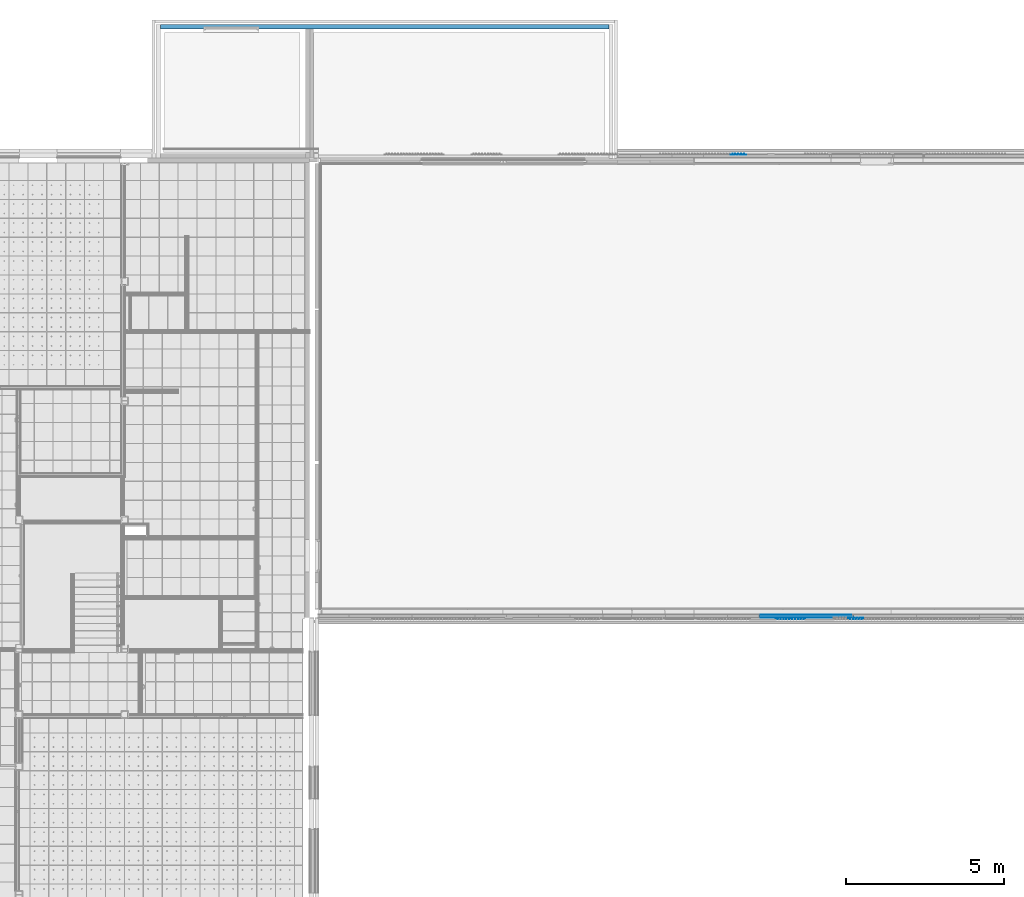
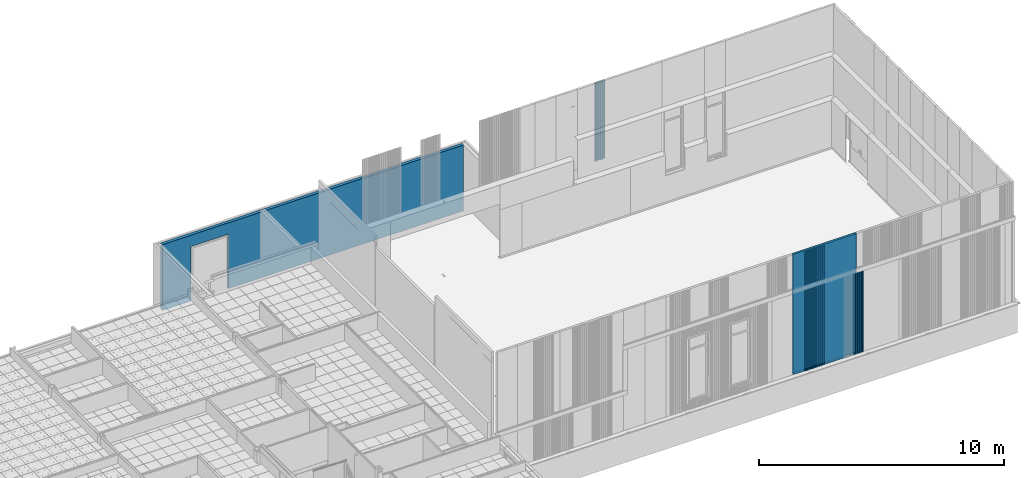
# One storey, part 98 of 338: 10 building element parts, 1 opening, 6 elements without a shape of their own.
"""IFC2X3 building model written with IfcOpenShell, lengths in millimetres."""

import ifcopenshell
import ifcopenshell.guid

model = None  # the IFC model being written
_history = None  # IfcOwnerHistory: only IFC2X3 demands one
_inside = {}  # id of a spatial element -> (the spatial element, [elements in it])
_under = {}  # id of a project, library or spatial element -> (it, [spatial elements below it])
_declared = {}  # id of a project -> (the project, [libraries it declares])
_typed = {}  # id of a type object -> (the type object, [elements of that type])
_made_of = {}  # id of a material, layer set ... -> (it, [elements and type objects made of it])


def new_model(schema):
    """Start an empty IFC model of exactly this schema.

    Asked for "IFC4X3", IfcOpenShell would pick the latest addendum, in which some entities
    have other attributes; the version numbers below select the first issue.
    IFC2X3 requires an IfcOwnerHistory on every rooted entity: one is made here for all.
    """
    global model, _history
    if schema == "IFC4X3":
        model = ifcopenshell.file(schema_version=(4, 3, 0, 0))
    else:
        model = ifcopenshell.file(schema=schema)
    _inside.clear()
    _under.clear()
    _declared.clear()
    _typed.clear()
    _made_of.clear()
    _history = None
    if model.schema == "IFC2X3":
        org = make("IfcOrganization", Name="unknown")
        user = make(
            "IfcPersonAndOrganization",
            ThePerson=make("IfcPerson", FamilyName="unknown"),
            TheOrganization=org,
        )
        app = make(
            "IfcApplication",
            ApplicationDeveloper=org,
            Version="unknown",
            ApplicationFullName="unknown",
            ApplicationIdentifier="unknown",
        )
        _history = make(
            "IfcOwnerHistory",
            OwningUser=user,
            OwningApplication=app,
            ChangeAction="ADDED",
            CreationDate=0,
        )
    return model


def make(cls, **values):
    """One entity of the class cls with the attributes given. An attribute that is None is left unset."""
    return model.create_entity(
        cls, **{name: value for name, value in values.items() if value is not None}
    )


def entity(cls, *values):
    """Any entity or typed value of the class cls, its attributes in the order of the schema. None: left unset."""
    e = model.create_entity(cls)
    for i, value in enumerate(values):
        if value is not None:
            e[i] = value
    return e


def rooted(cls, **values):
    """An entity with a GlobalId (a new one), such as an element, a storey or a relation."""
    return make(cls, GlobalId=ifcopenshell.guid.new(), OwnerHistory=_history, **values)


def si_unit(unit_type, name, prefix=None):
    """IfcSIUnit, for example si_unit("LENGTHUNIT", "METRE", prefix="MILLI")."""
    return make("IfcSIUnit", UnitType=unit_type, Prefix=prefix, Name=name)


def converted_unit(unit_type, name, factor, base, dimensions=None, offset=None):
    """IfcConversionBasedUnit, such as the inch: factor (a typed value) times the base unit."""
    return make(
        "IfcConversionBasedUnit"
        if offset is None
        else "IfcConversionBasedUnitWithOffset",
        ConversionOffset=offset,
        Dimensions=None
        if dimensions is None
        else entity("IfcDimensionalExponents", *dimensions),
        UnitType=unit_type,
        Name=name,
        ConversionFactor=make(
            "IfcMeasureWithUnit", ValueComponent=factor, UnitComponent=base
        ),
    )


def derived_unit(unit_type, elements):
    """IfcDerivedUnit: a product of units, each with its exponent."""
    return make(
        "IfcDerivedUnit",
        Elements=[
            make("IfcDerivedUnitElement", Unit=unit, Exponent=power)
            for unit, power in elements
        ],
        UnitType=unit_type,
    )


def money_unit(currency):
    """IfcMonetaryUnit."""
    return make("IfcMonetaryUnit", Currency=currency)


def assignment(units):
    """IfcUnitAssignment: the units of a project."""
    return None if units is None else make("IfcUnitAssignment", Units=units)


def point(xyz):
    """IfcCartesianPoint."""
    return None if xyz is None else make("IfcCartesianPoint", Coordinates=xyz)


def direction(xyz):
    """IfcDirection."""
    return None if xyz is None else make("IfcDirection", DirectionRatios=xyz)


def frame(location, z_axis=None, x_axis=None):
    """IfcAxis2Placement3D, a coordinate frame: its origin and axes. An axis left out is left unset."""
    return make(
        "IfcAxis2Placement3D",
        Location=point(location),
        Axis=direction(z_axis),
        RefDirection=direction(x_axis),
    )


def origin_with_axes():
    """The frame at (0, 0, 0) with the z axis (0, 0, 1) and the x axis (1, 0, 0) written out."""
    return frame((0.0, 0.0, 0.0), z_axis=(0.0, 0.0, 1.0), x_axis=(1.0, 0.0, 0.0))


def place(relative_to, where):
    """IfcLocalPlacement: puts the frame where relative to a parent placement (None: the world)."""
    return make(
        "IfcLocalPlacement", PlacementRelTo=relative_to, RelativePlacement=where
    )


def context(
    kind, dimensions, precision=None, world=None, true_north=None, identifier=None
):
    """IfcGeometricRepresentationContext, for example the 3D "Model" context."""
    return make(
        "IfcGeometricRepresentationContext",
        ContextIdentifier=identifier,
        ContextType=kind,
        CoordinateSpaceDimension=dimensions,
        Precision=precision,
        WorldCoordinateSystem=world,
        TrueNorth=true_north,
    )


def subcontext(parent, identifier, kind, view, scale=None):
    """IfcGeometricRepresentationSubContext, for example "Body" below "Model"."""
    return make(
        "IfcGeometricRepresentationSubContext",
        ContextIdentifier=identifier,
        ContextType=kind,
        ParentContext=parent,
        TargetScale=scale,
        TargetView=view,
    )


def project(units=None, contexts=None):
    """IfcProject with its units and contexts."""
    return rooted(
        "IfcProject",
        Name="project",
        RepresentationContexts=contexts,
        UnitsInContext=assignment(units),
    )


def spatial(cls, under=None, at=None, **own):
    """A site, building, storey or space (cls), placed at a placement, below another one or the project."""
    s = rooted(cls, ObjectPlacement=at, **own)
    if under is not None:
        _under.setdefault(under.id(), (under, []))[1].append(s)
    return s


def faces_of(points, faces, orient=None, outer=None):
    """IfcFace entities. A face is a list of loops; a loop is a list of indices into points, from 0.

    orient and outer hold one flag for each loop. By default every Orientation is true, the
    first loop of a face is its IfcFaceOuterBound and the others are IfcFaceBound.
    """
    made = []
    for i, loops in enumerate(faces):
        bounds = []
        for j, loop in enumerate(loops):
            is_outer = j == 0 if outer is None else outer[i][j]
            bounds.append(
                make(
                    "IfcFaceOuterBound" if is_outer else "IfcFaceBound",
                    Bound=make("IfcPolyLoop", Polygon=[points[k] for k in loop]),
                    Orientation=True if orient is None else orient[i][j],
                )
            )
        made.append(make("IfcFace", Bounds=bounds))
    return made


def faceted_brep(points, faces, orient=None, outer=None, voids=None):
    """IfcFacetedBrep: a solid bounded by flat faces; with voids (closed shells), ...WithVoids."""
    shared = [point(p) for p in points]
    hull = make("IfcClosedShell", CfsFaces=faces_of(shared, faces, orient, outer))
    if voids is None:
        return make("IfcFacetedBrep", Outer=hull)
    return make(
        "IfcFacetedBrepWithVoids",
        Outer=hull,
        Voids=[
            make(cls, CfsFaces=faces_of(shared, fs, o, b)) for cls, fs, o, b in voids
        ],
    )


def shape(context_of_items, identifier, shape_type, items):
    """IfcShapeRepresentation: the items that make up one representation, for example the "Body"."""
    return make(
        "IfcShapeRepresentation",
        ContextOfItems=context_of_items,
        RepresentationIdentifier=identifier,
        RepresentationType=shape_type,
        Items=items,
    )


def material(Name=None, Category=None):
    """IfcMaterial."""
    return make("IfcMaterial", Name=Name, Category=Category)


def made_of(thing, what):
    """Note that an element or type object is made of a material, layer set ...; save() writes the relation."""
    if what is not None:
        _made_of.setdefault(what.id(), (what, []))[1].append(thing)
    return thing


def type_object(cls, material=None, **own):
    """A type object (cls), such as IfcWallType, which elements share."""
    return made_of(rooted(cls, **own), material)


def element(
    cls,
    number,
    at=None,
    inside=None,
    cuts=None,
    type_object=None,
    material=None,
    context=None,
    identifier="Body",
    shape_type=None,
    held_by="IfcProductDefinitionShape",
    body=None,
    shapes=None,
    **own,
):
    """One element of the class cls, such as IfcWall. Its Tag is "e" and its number.

    at: its placement. inside: the storey or other place that contains it. cuts: it is an
    opening in that element (IfcRelVoidsElement). A single representation is given by context,
    identifier, shape_type and body (its items); several are given by shapes. held_by: the class
    of the entity that holds the representations. save() writes the other relations.
    """
    e = rooted(cls, Tag="e%d" % number, ObjectPlacement=at, **own)
    if body is not None:
        shapes = [shape(context, identifier, shape_type, body)]
    if shapes is not None:
        e.Representation = make(held_by, Representations=shapes)
    if inside is not None:
        _inside.setdefault(inside.id(), (inside, []))[1].append(e)
    if cuts is not None:
        rooted(
            "IfcRelVoidsElement", RelatingBuildingElement=cuts, RelatedOpeningElement=e
        )
    if type_object is not None:
        _typed.setdefault(type_object.id(), (type_object, []))[1].append(e)
    return made_of(e, material)


def aggregate(whole, parts):
    """IfcRelAggregates: a whole, such as a stair, and the parts it consists of."""
    return rooted("IfcRelAggregates", RelatingObject=whole, RelatedObjects=parts)


def save(model, path):
    """Write the relations noted so far, then the file.

    IfcRelAggregates (storeys below a building ...), IfcRelContainedInSpatialStructure (elements
    in a storey), IfcRelDefinesByType, IfcRelAssociatesMaterial and IfcRelDeclares: one each for
    every whole, place, type object, material and project.
    """
    for whole, parts in _under.values():
        aggregate(whole, parts)
    for where, things in _inside.values():
        rooted(
            "IfcRelContainedInSpatialStructure",
            RelatedElements=things,
            RelatingStructure=where,
        )
    for kind, things in _typed.values():
        rooted("IfcRelDefinesByType", RelatedObjects=things, RelatingType=kind)
    for what, things in _made_of.values():
        rooted("IfcRelAssociatesMaterial", RelatedObjects=things, RelatingMaterial=what)
    for by, libraries in _declared.values():
        rooted("IfcRelDeclares", RelatingContext=by, RelatedDefinitions=libraries)
    model.write(path)


model = new_model("IFC2X3")

# Units and contexts
model_context = context("Model", 3, precision=0.01, world=origin_with_axes(), true_north=direction((0.0, 1.0)))
plan_context = context("Plan", 3, precision=0.01, world=origin_with_axes(), true_north=direction((0.0, 1.0)))
body_context = subcontext(model_context, "Body", "Model", "MODEL_VIEW")
ifc_project = project(units=[si_unit("LENGTHUNIT", "METRE", prefix="MILLI"), si_unit("AREAUNIT", "SQUARE_METRE"), si_unit("VOLUMEUNIT", "CUBIC_METRE"), converted_unit("PLANEANGLEUNIT", "DEGREE", entity("IfcPlaneAngleMeasure", 0.0174532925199), si_unit("PLANEANGLEUNIT", "RADIAN"), dimensions=[0, 0, 0, 0, 0, 0, 0]), money_unit("EUR"), converted_unit("TIMEUNIT", "Year", entity("IfcTimeMeasure", 31556926.0), si_unit("TIMEUNIT", "SECOND"), dimensions=[0, 0, 1, 0, 0, 0, 0]), si_unit("MASSUNIT", "GRAM", prefix="KILO"), si_unit("THERMODYNAMICTEMPERATUREUNIT", "DEGREE_CELSIUS"), si_unit("LUMINOUSINTENSITYUNIT", "LUMEN"), si_unit("ENERGYUNIT", "JOULE", prefix="MEGA"), derived_unit("THERMALCONDUCTANCEUNIT", [(si_unit("POWERUNIT", "WATT"), 1), (si_unit("LENGTHUNIT", "METRE"), -1), (si_unit("THERMODYNAMICTEMPERATUREUNIT", "KELVIN"), -1)]), derived_unit("SPECIFICHEATCAPACITYUNIT", [(si_unit("ENERGYUNIT", "JOULE"), 1), (si_unit("MASSUNIT", "GRAM", prefix="KILO"), -1), (si_unit("THERMODYNAMICTEMPERATUREUNIT", "KELVIN"), -1)]), derived_unit("MASSDENSITYUNIT", [(si_unit("MASSUNIT", "GRAM", prefix="KILO"), 1), (si_unit("VOLUMEUNIT", "CUBIC_METRE"), -1)])], contexts=[model_context, plan_context])

# Site, building, storey
site_placement = place(None, origin_with_axes())
site = spatial("IfcSite", under=ifc_project, at=site_placement, Name="Fortuinstraat Woensdrecht", CompositionType="ELEMENT")
building_placement = place(site_placement, origin_with_axes())
building = spatial("IfcBuilding", under=site, at=building_placement, Name="IKC Fortuna", CompositionType="ELEMENT")
storey_placement = place(building_placement, origin_with_axes())
storey = spatial("IfcBuildingStorey", under=building, at=storey_placement, Name="00 begane grond", CompositionType="ELEMENT", Elevation=0.0)

# Wall, opening, building element part
wall_type_1 = type_object("IfcWallType", Name="21 MW accent 280", PredefinedType="NOTDEFINED")
wall_1_placement = place(storey_placement, frame((44333.4279792, 39596.2966283, -485.0), z_axis=(0.0, 0.0, 1.0), x_axis=(-1.0, 0.0, 0.0)))
wall_1 = element("IfcWall", 1, at=wall_1_placement, inside=storey, type_object=wall_type_1, Name="21_Wand_Baksteen")
opening_placement = place(wall_1_placement, frame((11983.0060326, 0.0, 297.5), z_axis=(0.0, 0.0, 1.0), x_axis=(1.0, 0.0, 0.0)))
element("IfcOpeningElement", 2, at=opening_placement, cuts=wall_1, Name="31_Deur_H.14", context=body_context, shape_type="Brep", body=[
    faceted_brep([(-885.0, -560.0, -485.0), (-885.0, -560.0, 2420.0), (-885.0, -72.0, 2420.0), (-885.0, -72.0, -485.0), (885.0, -560.0, -485.0), (885.0, -560.0, 2420.0), (885.0, -72.0, 2420.0), (885.0, -72.0, -485.0)], [[[0, 1, 2, 3]], [[0, 4, 5, 1]], [[1, 5, 6, 2]], [[3, 2, 6, 7]], [[4, 0, 3, 7]], [[5, 4, 7, 6]]]),
    faceted_brep([(-885.0, 280.0, 2420.0), (-885.0, 280.0, -485.0), (-885.0, -72.0, -485.0), (-885.0, -72.0, 2420.0), (885.0, 280.0, 2420.0), (885.0, 280.0, -485.0), (885.0, -72.0, -485.0), (885.0, -72.0, 2420.0)], [[[0, 1, 2, 3]], [[0, 4, 5, 1]], [[1, 5, 6, 2]], [[3, 2, 6, 7]], [[4, 0, 3, 7]], [[5, 4, 7, 6]]]),
])
ifc_material_1 = material(Name="ALG - ISOLATIE")
building_element_part_1_placement = place(wall_1_placement, origin_with_axes())
building_element_part_1 = element("IfcBuildingElementPart", 3, at=building_element_part_1_placement, material=ifc_material_1, Name="ALG - ISOLATIE", context=body_context, shape_type="Brep", body=[
    faceted_brep([(12868.0060326, -21.0, 317.5), (12868.0060326, 0.0, 317.5), (12868.0060326, 0.0, 222.5), (12868.0060326, -72.0, 222.5), (12868.0060326, -72.0, 292.86275329), (12868.0060326, -21.0, 297.5), (12868.0060326, -72.0, 2717.5), (12868.0060326, 0.0, 2717.5), (11098.0060326, 0.0, 2717.5), (11098.0060326, 0.0, 317.5), (11098.0060326, 0.0, 222.5), (11098.0060326, 0.0, 0.0), (0.0, 0.0, 0.0), (0.0, 0.0, 3285.0), (14227.993877, 0.0, 3285.0), (14227.993877, 0.0, 0.0), (12868.0060326, 0.0, 0.0), (12868.0060326, -72.0, 0.0), (12868.0060326, -140.0, 0.0), (12868.0060326, -140.0, 2717.5), (11098.0060326, -72.0, 2717.5), (11098.0060326, -72.0, 292.86275329), (11098.0060326, -21.0, 297.5), (11098.0060326, -21.0, 317.5), (11098.0060326, -72.0, 222.5), (11098.0060326, -72.0, 0.0), (11098.0060326, -140.0, 0.0), (-3.14844399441e-05, -140.0, 0.0), (-3.14844399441e-05, -140.0, 3285.0), (14227.9939075, -140.0, 3285.0), (14227.9939075, -140.0, 0.0), (11098.0060326, -140.0, 2717.5)], [[[0, 1, 2, 3, 4, 5]], [[4, 6, 7, 1, 0, 5]], [[8, 9, 10, 11, 12, 13, 14, 15, 16, 2, 1, 7]], [[17, 3, 2, 16]], [[6, 4, 3, 17, 18, 19]], [[6, 20, 8, 7]], [[20, 21, 22, 23, 9, 8]], [[22, 21, 24, 10, 9, 23]], [[10, 24, 25, 11]], [[11, 25, 26, 27, 12]], [[27, 28, 13, 12]], [[13, 28, 29, 14]], [[14, 29, 30, 15]], [[17, 16, 15, 30, 18]], [[27, 26, 31, 19, 18, 30, 29, 28]], [[20, 6, 19, 31]], [[21, 20, 31, 26, 25, 24]]]),
])
aggregate(wall_1, [building_element_part_1])

# Wall, building element parts
wall_type_2 = type_object("IfcWallType", Name="21 sandwich 100", PredefinedType="NOTDEFINED")
wall_2_placement = place(storey_placement, frame((52093.4131798, 20996.2966283, 1000.0), z_axis=(0.0, 0.0, 1.0), x_axis=(-1.0, 0.0, 0.0)))
wall_2 = element("IfcWall", 4, at=wall_2_placement, inside=storey, type_object=wall_type_2, Name="21_Wand_sandwichplaat")
ifc_material_2 = material(Name="Metaal - Aluminium")
building_element_part_2_placement = place(wall_2_placement, origin_with_axes())
building_element_part_2 = element("IfcBuildingElementPart", 5, at=building_element_part_2_placement, material=ifc_material_2, Name="Metaal - Aluminium", context=body_context, shape_type="Brep", body=[
    faceted_brep([(0.0, 99.0, 6000.0), (3000.0, 99.0, 6000.0), (3000.0, 100.0, 6000.0), (0.0, 100.0, 6000.0), (0.0, 99.0, 0.0), (3000.0, 99.0, 0.0), (3000.0, 100.0, 0.0), (0.0, 100.0, 0.0)], [[[0, 1, 2, 3]], [[4, 5, 1, 0]], [[2, 1, 5, 6]], [[3, 2, 6, 7]], [[4, 0, 3, 7]], [[7, 6, 5, 4]]]),
])
ifc_material_3 = material(Name="Isolatie - Kunststof hard")
building_element_part_3_placement = place(wall_2_placement, origin_with_axes())
building_element_part_3 = element("IfcBuildingElementPart", 6, at=building_element_part_3_placement, material=ifc_material_3, Name="Isolatie - Kunststof hard", context=body_context, shape_type="Brep", body=[
    faceted_brep([(3000.0, 1.0, 6000.0), (3000.0, 99.0, 6000.0), (0.0, 99.0, 6000.0), (0.0, 1.0, 6000.0), (3000.0, 1.0, 0.0), (3000.0, 99.0, 0.0), (0.0, 99.0, 0.0), (0.0, 1.0, 0.0)], [[[0, 1, 2, 3]], [[0, 4, 5, 1]], [[1, 5, 6, 2]], [[3, 2, 6, 7]], [[4, 0, 3, 7]], [[5, 4, 7, 6]]]),
])
building_element_part_4_placement = place(wall_2_placement, origin_with_axes())
building_element_part_4 = element("IfcBuildingElementPart", 7, at=building_element_part_4_placement, material=ifc_material_2, Name="Metaal - Aluminium", context=body_context, shape_type="Brep", body=[
    faceted_brep([(3000.0, 1.0, 6000.0), (3000.0, 0.999999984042, 18.9261694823), (0.0, 0.999999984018, 18.9261694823), (0.0, 1.0, 6000.0), (3000.0, 0.0, 18.9263474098), (3000.0, 0.0, 6000.0), (0.0, 0.0, 18.9263474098), (0.0, 0.0, 6000.0)], [[[0, 1, 2, 3]], [[4, 1, 0, 5]], [[1, 4, 6, 2]], [[3, 2, 6, 7]], [[5, 0, 3, 7]], [[4, 5, 7, 6]]]),
])
aggregate(wall_2, [building_element_part_2, building_element_part_3, building_element_part_4])

# Proxy, building element part
building_element_proxy_type = type_object("IfcBuildingElementProxyType", Name="21 Sandwich custom pyramid 946 x 37", PredefinedType="NOTDEFINED")
proxy_1_placement = place(storey_placement, frame((47749.6588228, 35596.2966199, 3019.99999434), z_axis=(0.0, 0.0, 1.0), x_axis=(1.0, 0.0, 0.0)))
proxy_1 = element("IfcBuildingElementProxy", 8, at=proxy_1_placement, inside=storey, type_object=building_element_proxy_type, Name="41_Generieke bekleding & afwerking buiten_sandwich custom pyramid")
building_element_part_5_placement = place(proxy_1_placement, origin_with_axes())
building_element_part_5 = element("IfcBuildingElementPart", 9, at=building_element_part_5_placement, material=ifc_material_2, Name="Metaal - Aluminium", context=body_context, shape_type="Brep", body=[
    faceted_brep([(460.0, 1.2, 0.0), (477.234285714, 1.2, 0.0), (477.234285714, 1.2, 3960.0000037), (460.0, 1.2, 3960.0000037), (460.0, 2.4, 0.0), (476.747100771, 2.4, 0.0), (512.0, 36.6736520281, 0.0), (548.487184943, 1.2, 0.0), (567.512815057, 1.2, 0.0), (604.0, 36.6736520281, 0.0), (640.487184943, 1.2, 0.0), (659.512815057, 1.2, 0.0), (696.0, 36.6736520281, 0.0), (732.487184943, 1.2, 0.0), (751.512815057, 1.2, 0.0), (788.0, 36.6736520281, 0.0), (824.487184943, 1.2, 0.0), (843.512815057, 1.2, 0.0), (880.0, 36.6736520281, 0.0), (916.487184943, 1.2, 0.0), (937.234285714, 1.2, 0.0), (945.472884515, 9.20974883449, 0.0), (946.309378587, 8.34935493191, 0.0), (937.721470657, 0.0, 0.0), (916.0, 0.0, 0.0), (880.0, 35.0, 0.0), (844.0, 0.0, 0.0), (824.0, 0.0, 0.0), (788.0, 35.0, 0.0), (752.0, 0.0, 0.0), (732.0, 0.0, 0.0), (696.0, 35.0, 0.0), (660.0, 0.0, 0.0), (640.0, 0.0, 0.0), (604.0, 35.0, 0.0), (568.0, 0.0, 0.0), (548.0, 0.0, 0.0), (512.0, 35.0, 0.0), (485.472879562, 9.20975302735, 0.0), (485.472879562, 9.20975302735, 3960.0000037), (512.0, 35.0, 3960.0000037), (548.0, 0.0, 3960.0000037), (568.0, 0.0, 3960.0000037), (604.0, 35.0, 3960.0000037), (640.0, 0.0, 3960.0000037), (660.0, 0.0, 3960.0000037), (696.0, 35.0, 3960.0000037), (732.0, 0.0, 3960.0000037), (752.0, 0.0, 3960.0000037), (788.0, 35.0, 3960.0000037), (824.0, 0.0, 3960.0000037), (844.0, 0.0, 3960.0000037), (880.0, 35.0, 3960.0000037), (916.0, 0.0, 3960.0000037), (937.721470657, 0.0, 3960.0000037), (946.309378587, 8.34935493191, 3960.0000037), (945.472884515, 9.20974883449, 3960.0000037), (937.234285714, 1.2, 3960.0000037), (916.487184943, 1.2, 3960.0000037), (880.0, 36.6736520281, 3960.0000037), (843.512815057, 1.2, 3960.0000037), (824.487184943, 1.2, 3960.0000037), (788.0, 36.6736520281, 3960.0000037), (751.512815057, 1.2, 3960.0000037), (732.487184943, 1.2, 3960.0000037), (696.0, 36.6736520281, 3960.0000037), (659.512815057, 1.2, 3960.0000037), (640.487184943, 1.2, 3960.0000037), (604.0, 36.6736520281, 3960.0000037), (567.512815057, 1.2, 3960.0000037), (548.487184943, 1.2, 3960.0000037), (512.0, 36.6736520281, 3960.0000037), (476.747100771, 2.4, 3960.0000037), (460.0, 2.4, 3960.0000037)], [[[0, 1, 2, 3]], [[0, 4, 5, 6, 7, 8, 9, 10, 11, 12, 13, 14, 15, 16, 17, 18, 19, 20, 21, 22, 23, 24, 25, 26, 27, 28, 29, 30, 31, 32, 33, 34, 35, 36, 37, 38, 1]], [[1, 38, 39, 2]], [[3, 2, 39, 40, 41, 42, 43, 44, 45, 46, 47, 48, 49, 50, 51, 52, 53, 54, 55, 56, 57, 58, 59, 60, 61, 62, 63, 64, 65, 66, 67, 68, 69, 70, 71, 72, 73]], [[4, 0, 3, 73]], [[5, 4, 73, 72]], [[6, 5, 72, 71]], [[7, 6, 71, 70]], [[8, 7, 70, 69]], [[9, 8, 69, 68]], [[10, 9, 68, 67]], [[11, 10, 67, 66]], [[12, 11, 66, 65]], [[13, 12, 65, 64]], [[14, 13, 64, 63]], [[15, 14, 63, 62]], [[16, 15, 62, 61]], [[17, 16, 61, 60]], [[18, 17, 60, 59]], [[19, 18, 59, 58]], [[20, 19, 58, 57]], [[21, 20, 57, 56]], [[22, 21, 56, 55]], [[23, 22, 55, 54]], [[24, 23, 54, 53]], [[25, 24, 53, 52]], [[26, 25, 52, 51]], [[27, 26, 51, 50]], [[28, 27, 50, 49]], [[29, 28, 49, 48]], [[30, 29, 48, 47]], [[31, 30, 47, 46]], [[32, 31, 46, 45]], [[33, 32, 45, 44]], [[34, 33, 44, 43]], [[35, 34, 43, 42]], [[36, 35, 42, 41]], [[37, 36, 41, 40]], [[38, 37, 40, 39]]]),
])
aggregate(proxy_1, [building_element_part_5])

proxy_2_placement = place(storey_placement, frame((52414.9270571, 20896.2966283, 1000.0), z_axis=(0.0, 0.0, 1.0), x_axis=(-1.0, 0.0, 0.0)))
proxy_2 = element("IfcBuildingElementProxy", 10, at=proxy_2_placement, inside=storey, type_object=building_element_proxy_type, Name="41_Generieke bekleding & afwerking buiten_sandwich custom pyramid")
building_element_part_6_placement = place(proxy_2_placement, origin_with_axes())
building_element_part_6 = element("IfcBuildingElementPart", 11, at=building_element_part_6_placement, material=ifc_material_2, Name="Metaal - Aluminium", context=body_context, shape_type="Brep", body=[
    faceted_brep([(0.0, 2.39999686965, 0.0), (0.0, 1.20000548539, 0.0), (0.0, 1.20000548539, 4060.85690076), (0.0, 2.39999686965, 4060.85690076), (16.7470988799, 2.39999686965, 0.0), (52.0000026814, 36.6736482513, 0.0), (88.487191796, 1.20000548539, 0.0), (107.51282048, 1.20000548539, 0.0), (143.999995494, 36.6736482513, 0.0), (180.487184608, 1.20000548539, 0.0), (199.512813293, 1.20000548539, 0.0), (236.000002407, 36.6736482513, 0.0), (272.487191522, 1.20000548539, 0.0), (291.512820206, 1.20000548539, 0.0), (327.99999522, 36.6736482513, 0.0), (364.487184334, 1.20000548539, 0.0), (383.512813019, 1.20000548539, 0.0), (420.000002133, 36.6736482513, 0.0), (456.487191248, 1.20000548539, 0.0), (460.000006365, 1.20000548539, 0.0), (477.23428491, 1.20000548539, 0.0), (485.472879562, 9.20975302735, 0.0), (486.309372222, 8.34935896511, 0.0), (477.721464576, 0.0, 0.0), (455.999997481, 0.0, 0.0), (420.000002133, 35.0000001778, 0.0), (384.000006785, 0.0, 0.0), (364.000004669, 0.0, 0.0), (327.99999522, 35.0000001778, 0.0), (291.999999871, 0.0, 0.0), (271.999997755, 0.0, 0.0), (236.000002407, 35.0000001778, 0.0), (199.999992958, 0.0, 0.0), (180.000004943, 0.0, 0.0), (143.999995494, 35.0000001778, 0.0), (108.000000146, 0.0, 0.0), (87.9999980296, 0.0, 0.0), (52.0000026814, 35.0000001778, 0.0), (17.2342926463, 1.20000548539, 0.0), (17.2342926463, 1.20000548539, 4060.85690076), (52.0000026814, 35.0000001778, 4060.85690076), (87.9999980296, 0.0, 4060.85690076), (108.000000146, 0.0, 4060.85690076), (143.999995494, 35.0000001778, 4060.85690076), (180.000004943, 0.0, 4060.85690076), (199.999992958, 0.0, 4060.85690076), (236.000002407, 35.0000001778, 4060.85690076), (271.999997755, 0.0, 4060.85690076), (291.999999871, 0.0, 4060.85690076), (327.99999522, 35.0000001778, 4060.85690076), (364.000004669, 0.0, 4060.85690076), (384.000006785, 0.0, 4060.85690076), (420.000002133, 35.0000001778, 4060.85690076), (455.999997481, 0.0, 4060.85690076), (477.721464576, 0.0, 4060.85690076), (486.309372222, 8.34935896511, 4060.85690076), (485.472879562, 9.20975302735, 4060.85690076), (477.23428491, 1.20000548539, 4060.85690076), (460.000006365, 1.20000548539, 4060.85690076), (456.487191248, 1.20000548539, 4060.85690076), (420.000002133, 36.6736482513, 4060.85690076), (383.512813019, 1.20000548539, 4060.85690076), (364.487184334, 1.20000548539, 4060.85690076), (327.99999522, 36.6736482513, 4060.85690076), (291.512820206, 1.20000548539, 4060.85690076), (272.487191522, 1.20000548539, 4060.85690076), (236.000002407, 36.6736482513, 4060.85690076), (199.512813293, 1.20000548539, 4060.85690076), (180.487184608, 1.20000548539, 4060.85690076), (143.999995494, 36.6736482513, 4060.85690076), (107.51282048, 1.20000548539, 4060.85690076), (88.487191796, 1.20000548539, 4060.85690076), (52.0000026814, 36.6736482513, 4060.85690076), (16.7470988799, 2.39999686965, 4060.85690076)], [[[0, 1, 2, 3]], [[0, 4, 5, 6, 7, 8, 9, 10, 11, 12, 13, 14, 15, 16, 17, 18, 19, 20, 21, 22, 23, 24, 25, 26, 27, 28, 29, 30, 31, 32, 33, 34, 35, 36, 37, 38, 1]], [[1, 38, 39, 2]], [[3, 2, 39, 40, 41, 42, 43, 44, 45, 46, 47, 48, 49, 50, 51, 52, 53, 54, 55, 56, 57, 58, 59, 60, 61, 62, 63, 64, 65, 66, 67, 68, 69, 70, 71, 72, 73]], [[4, 0, 3, 73]], [[5, 4, 73, 72]], [[6, 5, 72, 71]], [[7, 6, 71, 70]], [[8, 7, 70, 69]], [[9, 8, 69, 68]], [[10, 9, 68, 67]], [[11, 10, 67, 66]], [[12, 11, 66, 65]], [[13, 12, 65, 64]], [[14, 13, 64, 63]], [[15, 14, 63, 62]], [[16, 15, 62, 61]], [[17, 16, 61, 60]], [[18, 17, 60, 59]], [[19, 18, 59, 58]], [[20, 19, 58, 57]], [[21, 20, 57, 56]], [[22, 21, 56, 55]], [[23, 22, 55, 54]], [[24, 23, 54, 53]], [[25, 24, 53, 52]], [[26, 25, 52, 51]], [[27, 26, 51, 50]], [[28, 27, 50, 49]], [[29, 28, 49, 48]], [[30, 29, 48, 47]], [[31, 30, 47, 46]], [[32, 31, 46, 45]], [[33, 32, 45, 44]], [[34, 33, 44, 43]], [[35, 34, 43, 42]], [[36, 35, 42, 41]], [[37, 36, 41, 40]], [[38, 37, 40, 39]]]),
])
aggregate(proxy_2, [building_element_part_6])

# Proxy, building element parts
proxy_3_placement = place(storey_placement, frame((50574.9270571, 20896.2966283, 1000.0), z_axis=(0.0, 0.0, 1.0), x_axis=(-1.0, 0.0, 0.0)))
proxy_3 = element("IfcBuildingElementProxy", 12, at=proxy_3_placement, inside=storey, type_object=building_element_proxy_type, Name="41_Generieke bekleding & afwerking buiten_sandwich custom pyramid")
building_element_part_7_placement = place(proxy_3_placement, origin_with_axes())
building_element_part_7 = element("IfcBuildingElementPart", 13, at=building_element_part_7_placement, material=ifc_material_2, Name="Metaal - Aluminium", context=body_context, shape_type="Brep", body=[
    faceted_brep([(0.0, 2.39999686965, 0.0), (0.0, 1.20000548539, 0.0), (0.0, 1.20000548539, 4060.85690076), (0.0, 2.39999686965, 4060.85690076), (16.7470988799, 2.39999686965, 0.0), (52.0000026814, 36.6736482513, 0.0), (88.487191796, 1.20000548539, 0.0), (107.51282048, 1.20000548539, 0.0), (143.999995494, 36.6736482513, 0.0), (180.487184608, 1.20000548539, 0.0), (199.512813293, 1.20000548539, 0.0), (236.000002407, 36.6736482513, 0.0), (272.487191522, 1.20000548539, 0.0), (291.512820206, 1.20000548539, 0.0), (327.99999522, 36.6736482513, 0.0), (364.487184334, 1.20000548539, 0.0), (383.512813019, 1.20000548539, 0.0), (420.000002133, 36.6736482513, 0.0), (456.487191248, 1.20000548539, 0.0), (460.000006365, 1.20000548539, 0.0), (477.23428491, 1.20000548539, 0.0), (485.472879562, 9.20975302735, 0.0), (486.309372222, 8.34935896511, 0.0), (477.721464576, 0.0, 0.0), (455.999997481, 0.0, 0.0), (420.000002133, 35.0000001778, 0.0), (384.000006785, 0.0, 0.0), (364.000004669, 0.0, 0.0), (327.99999522, 35.0000001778, 0.0), (291.999999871, 0.0, 0.0), (271.999997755, 0.0, 0.0), (236.000002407, 35.0000001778, 0.0), (199.999992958, 0.0, 0.0), (180.000004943, 0.0, 0.0), (143.999995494, 35.0000001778, 0.0), (108.000000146, 0.0, 0.0), (87.9999980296, 0.0, 0.0), (52.0000026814, 35.0000001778, 0.0), (17.2342926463, 1.20000548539, 0.0), (17.2342926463, 1.20000548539, 4060.85690076), (52.0000026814, 35.0000001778, 4060.85690076), (87.9999980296, 0.0, 4060.85690076), (108.000000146, 0.0, 4060.85690076), (143.999995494, 35.0000001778, 4060.85690076), (180.000004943, 0.0, 4060.85690076), (199.999992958, 0.0, 4060.85690076), (236.000002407, 35.0000001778, 4060.85690076), (271.999997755, 0.0, 4060.85690076), (291.999999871, 0.0, 4060.85690076), (327.99999522, 35.0000001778, 4060.85690076), (364.000004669, 0.0, 4060.85690076), (384.000006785, 0.0, 4060.85690076), (420.000002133, 35.0000001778, 4060.85690076), (455.999997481, 0.0, 4060.85690076), (477.721464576, 0.0, 4060.85690076), (486.309372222, 8.34935896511, 4060.85690076), (485.472879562, 9.20975302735, 4060.85690076), (477.23428491, 1.20000548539, 4060.85690076), (460.000006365, 1.20000548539, 4060.85690076), (456.487191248, 1.20000548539, 4060.85690076), (420.000002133, 36.6736482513, 4060.85690076), (383.512813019, 1.20000548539, 4060.85690076), (364.487184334, 1.20000548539, 4060.85690076), (327.99999522, 36.6736482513, 4060.85690076), (291.512820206, 1.20000548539, 4060.85690076), (272.487191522, 1.20000548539, 4060.85690076), (236.000002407, 36.6736482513, 4060.85690076), (199.512813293, 1.20000548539, 4060.85690076), (180.487184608, 1.20000548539, 4060.85690076), (143.999995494, 36.6736482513, 4060.85690076), (107.51282048, 1.20000548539, 4060.85690076), (88.487191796, 1.20000548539, 4060.85690076), (52.0000026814, 36.6736482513, 4060.85690076), (16.7470988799, 2.39999686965, 4060.85690076)], [[[0, 1, 2, 3]], [[0, 4, 5, 6, 7, 8, 9, 10, 11, 12, 13, 14, 15, 16, 17, 18, 19, 20, 21, 22, 23, 24, 25, 26, 27, 28, 29, 30, 31, 32, 33, 34, 35, 36, 37, 38, 1]], [[1, 38, 39, 2]], [[3, 2, 39, 40, 41, 42, 43, 44, 45, 46, 47, 48, 49, 50, 51, 52, 53, 54, 55, 56, 57, 58, 59, 60, 61, 62, 63, 64, 65, 66, 67, 68, 69, 70, 71, 72, 73]], [[4, 0, 3, 73]], [[5, 4, 73, 72]], [[6, 5, 72, 71]], [[7, 6, 71, 70]], [[8, 7, 70, 69]], [[9, 8, 69, 68]], [[10, 9, 68, 67]], [[11, 10, 67, 66]], [[12, 11, 66, 65]], [[13, 12, 65, 64]], [[14, 13, 64, 63]], [[15, 14, 63, 62]], [[16, 15, 62, 61]], [[17, 16, 61, 60]], [[18, 17, 60, 59]], [[19, 18, 59, 58]], [[20, 19, 58, 57]], [[21, 20, 57, 56]], [[22, 21, 56, 55]], [[23, 22, 55, 54]], [[24, 23, 54, 53]], [[25, 24, 53, 52]], [[26, 25, 52, 51]], [[27, 26, 51, 50]], [[28, 27, 50, 49]], [[29, 28, 49, 48]], [[30, 29, 48, 47]], [[31, 30, 47, 46]], [[32, 31, 46, 45]], [[33, 32, 45, 44]], [[34, 33, 44, 43]], [[35, 34, 43, 42]], [[36, 35, 42, 41]], [[37, 36, 41, 40]], [[38, 37, 40, 39]]]),
])
building_element_part_8_placement = place(proxy_3_placement, origin_with_axes())
building_element_part_8 = element("IfcBuildingElementPart", 14, at=building_element_part_8_placement, material=ifc_material_2, Name="Metaal - Aluminium", context=body_context, shape_type="Brep", body=[
    faceted_brep([(460.0, 1.2, 0.0), (477.234285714, 1.2, 0.0), (477.234285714, 1.2, 4060.85690076), (460.0, 1.2, 4060.85690076), (460.0, 2.4, 0.0), (476.747100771, 2.4, 0.0), (512.0, 36.6736520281, 0.0), (548.487184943, 1.2, 0.0), (567.512815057, 1.2, 0.0), (604.0, 36.6736520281, 0.0), (640.487184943, 1.2, 0.0), (659.512815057, 1.2, 0.0), (696.0, 36.6736520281, 0.0), (732.487184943, 1.2, 0.0), (751.512815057, 1.2, 0.0), (788.0, 36.6736520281, 0.0), (824.487184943, 1.2, 0.0), (843.512815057, 1.2, 0.0), (880.0, 36.6736520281, 0.0), (916.487184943, 1.2, 0.0), (937.234285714, 1.2, 0.0), (945.472884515, 9.20974883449, 0.0), (946.309378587, 8.34935493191, 0.0), (937.721470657, 0.0, 0.0), (916.0, 0.0, 0.0), (880.0, 35.0, 0.0), (844.0, 0.0, 0.0), (824.0, 0.0, 0.0), (788.0, 35.0, 0.0), (752.0, 0.0, 0.0), (732.0, 0.0, 0.0), (696.0, 35.0, 0.0), (660.0, 0.0, 0.0), (640.0, 0.0, 0.0), (604.0, 35.0, 0.0), (568.0, 0.0, 0.0), (548.0, 0.0, 0.0), (512.0, 35.0, 0.0), (485.472879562, 9.20975302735, 0.0), (485.472879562, 9.20975302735, 4060.85690076), (512.0, 35.0, 4060.85690076), (548.0, 0.0, 4060.85690076), (568.0, 0.0, 4060.85690076), (604.0, 35.0, 4060.85690076), (640.0, 0.0, 4060.85690076), (660.0, 0.0, 4060.85690076), (696.0, 35.0, 4060.85690076), (732.0, 0.0, 4060.85690076), (752.0, 0.0, 4060.85690076), (788.0, 35.0, 4060.85690076), (824.0, 0.0, 4060.85690076), (844.0, 0.0, 4060.85690076), (880.0, 35.0, 4060.85690076), (916.0, 0.0, 4060.85690076), (937.721470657, 0.0, 4060.85690076), (946.309378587, 8.34935493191, 4060.85690076), (945.472884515, 9.20974883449, 4060.85690076), (937.234285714, 1.2, 4060.85690076), (916.487184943, 1.2, 4060.85690076), (880.0, 36.6736520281, 4060.85690076), (843.512815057, 1.2, 4060.85690076), (824.487184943, 1.2, 4060.85690076), (788.0, 36.6736520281, 4060.85690076), (751.512815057, 1.2, 4060.85690076), (732.487184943, 1.2, 4060.85690076), (696.0, 36.6736520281, 4060.85690076), (659.512815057, 1.2, 4060.85690076), (640.487184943, 1.2, 4060.85690076), (604.0, 36.6736520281, 4060.85690076), (567.512815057, 1.2, 4060.85690076), (548.487184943, 1.2, 4060.85690076), (512.0, 36.6736520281, 4060.85690076), (476.747100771, 2.4, 4060.85690076), (460.0, 2.4, 4060.85690076)], [[[0, 1, 2, 3]], [[0, 4, 5, 6, 7, 8, 9, 10, 11, 12, 13, 14, 15, 16, 17, 18, 19, 20, 21, 22, 23, 24, 25, 26, 27, 28, 29, 30, 31, 32, 33, 34, 35, 36, 37, 38, 1]], [[1, 38, 39, 2]], [[3, 2, 39, 40, 41, 42, 43, 44, 45, 46, 47, 48, 49, 50, 51, 52, 53, 54, 55, 56, 57, 58, 59, 60, 61, 62, 63, 64, 65, 66, 67, 68, 69, 70, 71, 72, 73]], [[4, 0, 3, 73]], [[5, 4, 73, 72]], [[6, 5, 72, 71]], [[7, 6, 71, 70]], [[8, 7, 70, 69]], [[9, 8, 69, 68]], [[10, 9, 68, 67]], [[11, 10, 67, 66]], [[12, 11, 66, 65]], [[13, 12, 65, 64]], [[14, 13, 64, 63]], [[15, 14, 63, 62]], [[16, 15, 62, 61]], [[17, 16, 61, 60]], [[18, 17, 60, 59]], [[19, 18, 59, 58]], [[20, 19, 58, 57]], [[21, 20, 57, 56]], [[22, 21, 56, 55]], [[23, 22, 55, 54]], [[24, 23, 54, 53]], [[25, 24, 53, 52]], [[26, 25, 52, 51]], [[27, 26, 51, 50]], [[28, 27, 50, 49]], [[29, 28, 49, 48]], [[30, 29, 48, 47]], [[31, 30, 47, 46]], [[32, 31, 46, 45]], [[33, 32, 45, 44]], [[34, 33, 44, 43]], [[35, 34, 43, 42]], [[36, 35, 42, 41]], [[37, 36, 41, 40]], [[38, 37, 40, 39]]]),
])
aggregate(proxy_3, [building_element_part_7, building_element_part_8])

proxy_4_placement = place(storey_placement, frame((50574.9270571, 20896.2966283, 5289.99999237), z_axis=(0.0, 0.0, 1.0), x_axis=(-1.0, 0.0, 0.0)))
proxy_4 = element("IfcBuildingElementProxy", 15, at=proxy_4_placement, inside=storey, type_object=building_element_proxy_type, Name="41_Generieke bekleding & afwerking buiten_sandwich custom pyramid")
building_element_part_9_placement = place(proxy_4_placement, origin_with_axes())
building_element_part_9 = element("IfcBuildingElementPart", 16, at=building_element_part_9_placement, material=ifc_material_2, Name="Metaal - Aluminium", context=body_context, shape_type="Brep", body=[
    faceted_brep([(0.0, 2.39999686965, 0.0), (0.0, 1.20000548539, 0.0), (0.0, 1.20000548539, 1690.00000566), (0.0, 2.39999686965, 1690.00000566), (16.7470988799, 2.39999686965, 0.0), (52.0000026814, 36.6736482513, 0.0), (88.487191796, 1.20000548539, 0.0), (107.51282048, 1.20000548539, 0.0), (143.999995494, 36.6736482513, 0.0), (180.487184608, 1.20000548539, 0.0), (199.512813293, 1.20000548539, 0.0), (236.000002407, 36.6736482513, 0.0), (272.487191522, 1.20000548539, 0.0), (291.512820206, 1.20000548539, 0.0), (327.99999522, 36.6736482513, 0.0), (364.487184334, 1.20000548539, 0.0), (383.512813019, 1.20000548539, 0.0), (420.000002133, 36.6736482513, 0.0), (456.487191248, 1.20000548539, 0.0), (460.000006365, 1.20000548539, 0.0), (477.23428491, 1.20000548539, 0.0), (485.472879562, 9.20975302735, 0.0), (486.309372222, 8.34935896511, 0.0), (477.721464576, 0.0, 0.0), (455.999997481, 0.0, 0.0), (420.000002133, 35.0000001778, 0.0), (384.000006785, 0.0, 0.0), (364.000004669, 0.0, 0.0), (327.99999522, 35.0000001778, 0.0), (291.999999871, 0.0, 0.0), (271.999997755, 0.0, 0.0), (236.000002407, 35.0000001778, 0.0), (199.999992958, 0.0, 0.0), (180.000004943, 0.0, 0.0), (143.999995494, 35.0000001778, 0.0), (108.000000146, 0.0, 0.0), (87.9999980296, 0.0, 0.0), (52.0000026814, 35.0000001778, 0.0), (17.2342926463, 1.20000548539, 0.0), (17.2342926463, 1.20000548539, 1690.00000566), (52.0000026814, 35.0000001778, 1690.00000566), (87.9999980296, 0.0, 1690.00000566), (108.000000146, 0.0, 1690.00000566), (143.999995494, 35.0000001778, 1690.00000566), (180.000004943, 0.0, 1690.00000566), (199.999992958, 0.0, 1690.00000566), (236.000002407, 35.0000001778, 1690.00000566), (271.999997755, 0.0, 1690.00000566), (291.999999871, 0.0, 1690.00000566), (327.99999522, 35.0000001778, 1690.00000566), (364.000004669, 0.0, 1690.00000566), (384.000006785, 0.0, 1690.00000566), (420.000002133, 35.0000001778, 1690.00000566), (455.999997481, 0.0, 1690.00000566), (477.721464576, 0.0, 1690.00000566), (486.309372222, 8.34935896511, 1690.00000566), (485.472879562, 9.20975302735, 1690.00000566), (477.23428491, 1.20000548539, 1690.00000566), (460.000006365, 1.20000548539, 1690.00000566), (456.487191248, 1.20000548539, 1690.00000566), (420.000002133, 36.6736482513, 1690.00000566), (383.512813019, 1.20000548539, 1690.00000566), (364.487184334, 1.20000548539, 1690.00000566), (327.99999522, 36.6736482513, 1690.00000566), (291.512820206, 1.20000548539, 1690.00000566), (272.487191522, 1.20000548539, 1690.00000566), (236.000002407, 36.6736482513, 1690.00000566), (199.512813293, 1.20000548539, 1690.00000566), (180.487184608, 1.20000548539, 1690.00000566), (143.999995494, 36.6736482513, 1690.00000566), (107.51282048, 1.20000548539, 1690.00000566), (88.487191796, 1.20000548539, 1690.00000566), (52.0000026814, 36.6736482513, 1690.00000566), (16.7470988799, 2.39999686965, 1690.00000566)], [[[0, 1, 2, 3]], [[0, 4, 5, 6, 7, 8, 9, 10, 11, 12, 13, 14, 15, 16, 17, 18, 19, 20, 21, 22, 23, 24, 25, 26, 27, 28, 29, 30, 31, 32, 33, 34, 35, 36, 37, 38, 1]], [[1, 38, 39, 2]], [[3, 2, 39, 40, 41, 42, 43, 44, 45, 46, 47, 48, 49, 50, 51, 52, 53, 54, 55, 56, 57, 58, 59, 60, 61, 62, 63, 64, 65, 66, 67, 68, 69, 70, 71, 72, 73]], [[4, 0, 3, 73]], [[5, 4, 73, 72]], [[6, 5, 72, 71]], [[7, 6, 71, 70]], [[8, 7, 70, 69]], [[9, 8, 69, 68]], [[10, 9, 68, 67]], [[11, 10, 67, 66]], [[12, 11, 66, 65]], [[13, 12, 65, 64]], [[14, 13, 64, 63]], [[15, 14, 63, 62]], [[16, 15, 62, 61]], [[17, 16, 61, 60]], [[18, 17, 60, 59]], [[19, 18, 59, 58]], [[20, 19, 58, 57]], [[21, 20, 57, 56]], [[22, 21, 56, 55]], [[23, 22, 55, 54]], [[24, 23, 54, 53]], [[25, 24, 53, 52]], [[26, 25, 52, 51]], [[27, 26, 51, 50]], [[28, 27, 50, 49]], [[29, 28, 49, 48]], [[30, 29, 48, 47]], [[31, 30, 47, 46]], [[32, 31, 46, 45]], [[33, 32, 45, 44]], [[34, 33, 44, 43]], [[35, 34, 43, 42]], [[36, 35, 42, 41]], [[37, 36, 41, 40]], [[38, 37, 40, 39]]]),
])
building_element_part_10_placement = place(proxy_4_placement, origin_with_axes())
building_element_part_10 = element("IfcBuildingElementPart", 17, at=building_element_part_10_placement, material=ifc_material_2, Name="Metaal - Aluminium", context=body_context, shape_type="Brep", body=[
    faceted_brep([(460.0, 1.2, 0.0), (477.234285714, 1.2, 0.0), (477.234285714, 1.2, 1690.00000566), (460.0, 1.2, 1690.00000566), (460.0, 2.4, 0.0), (476.747100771, 2.4, 0.0), (512.0, 36.6736520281, 0.0), (548.487184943, 1.2, 0.0), (567.512815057, 1.2, 0.0), (604.0, 36.6736520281, 0.0), (640.487184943, 1.2, 0.0), (659.512815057, 1.2, 0.0), (696.0, 36.6736520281, 0.0), (732.487184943, 1.2, 0.0), (751.512815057, 1.2, 0.0), (788.0, 36.6736520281, 0.0), (824.487184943, 1.2, 0.0), (843.512815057, 1.2, 0.0), (880.0, 36.6736520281, 0.0), (916.487184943, 1.2, 0.0), (937.234285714, 1.2, 0.0), (945.472884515, 9.20974883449, 0.0), (946.309378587, 8.34935493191, 0.0), (937.721470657, 0.0, 0.0), (916.0, 0.0, 0.0), (880.0, 35.0, 0.0), (844.0, 0.0, 0.0), (824.0, 0.0, 0.0), (788.0, 35.0, 0.0), (752.0, 0.0, 0.0), (732.0, 0.0, 0.0), (696.0, 35.0, 0.0), (660.0, 0.0, 0.0), (640.0, 0.0, 0.0), (604.0, 35.0, 0.0), (568.0, 0.0, 0.0), (548.0, 0.0, 0.0), (512.0, 35.0, 0.0), (485.472879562, 9.20975302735, 0.0), (485.472879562, 9.20975302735, 1690.00000566), (512.0, 35.0, 1690.00000566), (548.0, 0.0, 1690.00000566), (568.0, 0.0, 1690.00000566), (604.0, 35.0, 1690.00000566), (640.0, 0.0, 1690.00000566), (660.0, 0.0, 1690.00000566), (696.0, 35.0, 1690.00000566), (732.0, 0.0, 1690.00000566), (752.0, 0.0, 1690.00000566), (788.0, 35.0, 1690.00000566), (824.0, 0.0, 1690.00000566), (844.0, 0.0, 1690.00000566), (880.0, 35.0, 1690.00000566), (916.0, 0.0, 1690.00000566), (937.721470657, 0.0, 1690.00000566), (946.309378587, 8.34935493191, 1690.00000566), (945.472884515, 9.20974883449, 1690.00000566), (937.234285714, 1.2, 1690.00000566), (916.487184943, 1.2, 1690.00000566), (880.0, 36.6736520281, 1690.00000566), (843.512815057, 1.2, 1690.00000566), (824.487184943, 1.2, 1690.00000566), (788.0, 36.6736520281, 1690.00000566), (751.512815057, 1.2, 1690.00000566), (732.487184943, 1.2, 1690.00000566), (696.0, 36.6736520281, 1690.00000566), (659.512815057, 1.2, 1690.00000566), (640.487184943, 1.2, 1690.00000566), (604.0, 36.6736520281, 1690.00000566), (567.512815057, 1.2, 1690.00000566), (548.487184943, 1.2, 1690.00000566), (512.0, 36.6736520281, 1690.00000566), (476.747100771, 2.4, 1690.00000566), (460.0, 2.4, 1690.00000566)], [[[0, 1, 2, 3]], [[0, 4, 5, 6, 7, 8, 9, 10, 11, 12, 13, 14, 15, 16, 17, 18, 19, 20, 21, 22, 23, 24, 25, 26, 27, 28, 29, 30, 31, 32, 33, 34, 35, 36, 37, 38, 1]], [[1, 38, 39, 2]], [[3, 2, 39, 40, 41, 42, 43, 44, 45, 46, 47, 48, 49, 50, 51, 52, 53, 54, 55, 56, 57, 58, 59, 60, 61, 62, 63, 64, 65, 66, 67, 68, 69, 70, 71, 72, 73]], [[4, 0, 3, 73]], [[5, 4, 73, 72]], [[6, 5, 72, 71]], [[7, 6, 71, 70]], [[8, 7, 70, 69]], [[9, 8, 69, 68]], [[10, 9, 68, 67]], [[11, 10, 67, 66]], [[12, 11, 66, 65]], [[13, 12, 65, 64]], [[14, 13, 64, 63]], [[15, 14, 63, 62]], [[16, 15, 62, 61]], [[17, 16, 61, 60]], [[18, 17, 60, 59]], [[19, 18, 59, 58]], [[20, 19, 58, 57]], [[21, 20, 57, 56]], [[22, 21, 56, 55]], [[23, 22, 55, 54]], [[24, 23, 54, 53]], [[25, 24, 53, 52]], [[26, 25, 52, 51]], [[27, 26, 51, 50]], [[28, 27, 50, 49]], [[29, 28, 49, 48]], [[30, 29, 48, 47]], [[31, 30, 47, 46]], [[32, 31, 46, 45]], [[33, 32, 45, 44]], [[34, 33, 44, 43]], [[35, 34, 43, 42]], [[36, 35, 42, 41]], [[37, 36, 41, 40]], [[38, 37, 40, 39]]]),
])
aggregate(proxy_4, [building_element_part_9, building_element_part_10])

save(model, "model.ifc")
